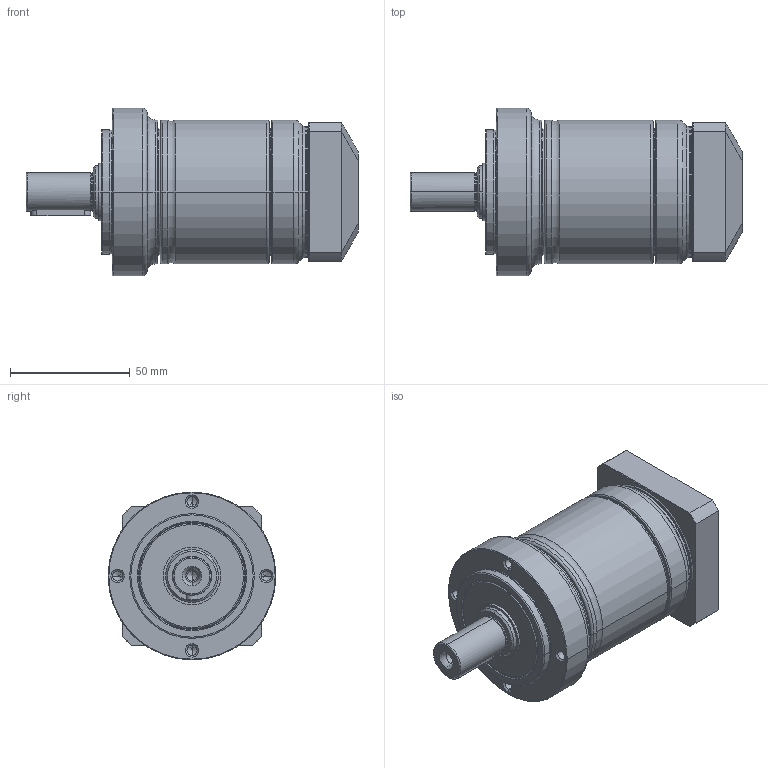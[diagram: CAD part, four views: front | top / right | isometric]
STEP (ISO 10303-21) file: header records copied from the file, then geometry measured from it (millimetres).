
FILE_DESCRIPTION((''),'2;1');
FILE_NAME('PE2-070_2ST_8-P0411100101_ASM','2017-06-01T',('d01943'),(''),'PRO/ENGINEER BY PARAMETRIC TECHNOLOGY CORPORATION, 2008410','PRO/ENGINEER BY PARAMETRIC TECHNOLOGY CORPORATION, 2008410','');
FILE_SCHEMA(('CONFIG_CONTROL_DESIGN'));
Length unit declared in the file: millimetre
Products named in the file (9): P1323210001; P0251200001; P1324200001; P0350201001; P0941200001; P0503100005; P0411100101; P1702300001; PE2-070_2ST_8-P0411100101_ASM
Assembly tree (8 placements, depth 2):
  PE2-070_2ST_8-P0411100101_ASM
    P1323210001
    P0251200001
    P1324200001
    P0350201001
    P0941200001
    P0503100005
    P0411100101
    P1702300001
Bounding box: 138.5 x 70 x 70 mm (x, y, z)
Volume: 230966.1 mm3; surface area: 71684.9 mm2
Topology: 8 solids, 8 shells, 459 faces, 1024 edges, 594 vertices
Faces by surface type: cylinder 136, cone 128, torus 102, plane 77, bspline 16
Entity records: 17795 total; most frequent: CARTESIAN_POINT 7352, DIRECTION 2367, ORIENTED_EDGE 2000, AXIS2_PLACEMENT_3D 1022, EDGE_CURVE 1000, VERTEX_POINT 594, CIRCLE 562, EDGE_LOOP 520
